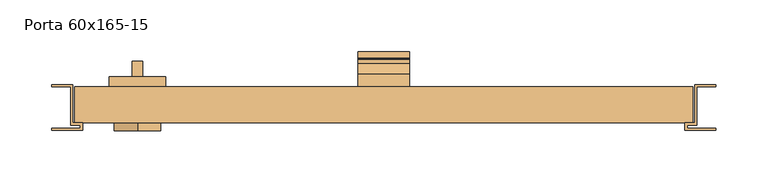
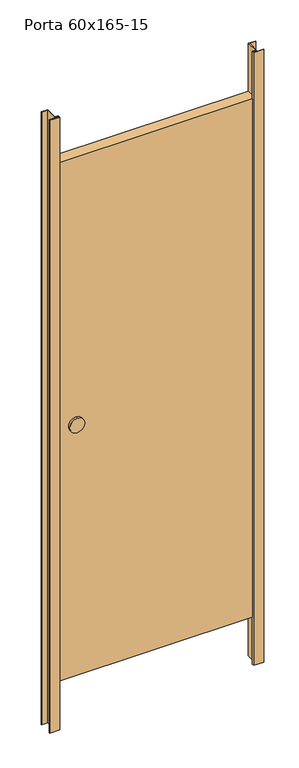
"""IFC4 building model written with IfcOpenShell, lengths in millimetres: door geometry, Porta 60x165-15 : De Abrir_1 (uma) folha."""

from ifc_helpers import new_model, si_unit, point, frame, frame_2d, origin, origin_with_axes, place, context, project, spatial, polyline, circle_curve, trimmed, segment, composite_curve, outline, extrude, source, transform, mapped, element, save


def porta_60x165_15_827af2f1(model_context):
    return source(origin(), model_context, "Body", "SweptSolid", [
        extrude(outline(composite_curve([segment(trimmed(circle_curve(frame_2d((950.0, -239.0)), 22.5), [point((927.5, -239.0))], [point((972.5, -239.0))], False, "CARTESIAN"), True, "CONTINUOUS"), segment(trimmed(circle_curve(frame_2d((950.0, -239.0)), 22.5), [point((972.5, -239.0))], [point((927.5, -239.0))], False, "CARTESIAN"), True, "CONTINUOUS")], self_intersect=False)), frame((0.0, -7.4328407, 0.0), z_axis=(0.0, 1.0, 0.0), x_axis=(0.0, 0.0, 1.0)), (0.0, 0.0, 1.0), 7.4328407),
        extrude(outline(polyline([(-244.0, 60.0), (-234.0, 60.0), (-234.0, 45.0), (-244.0, 45.0), (-244.0, 60.0)])), frame((0.0, 0.0, 932.5), z_axis=(0.0, 0.0, 1.0), x_axis=(1.0, 0.0, 0.0)), (0.0, 0.0, 1.0), 35.0),
        extrude(outline(polyline([(-266.5, 45.0), (-211.5, 45.0), (-211.5, 35.0), (-266.5, 35.0), (-266.5, 45.0)])), frame((0.0, 0.0, 912.5), z_axis=(0.0, 0.0, 1.0), x_axis=(1.0, 0.0, 0.0)), (0.0, 0.0, 1.0), 75.0),
        extrude(outline(composite_curve([segment(polyline([(37.0, 1503.1338874), (37.0, 1478.8625069), (35.0, 1478.8625069), (35.0, 1503.1338874)]), True, "CONTINUOUS"), segment(trimmed(circle_curve(frame_2d((41.298616, 1503.1338874)), 6.298616), [point((35.0, 1503.1338874))], [point((47.597232, 1503.1338874))], False, "CARTESIAN"), True, "CONTINUOUS"), segment(trimmed(circle_curve(frame_2d((90.1631226, 1503.1338874)), 42.5658907), [point((47.597232, 1503.1338874))], [point((57.5557586, 1475.7730602))], True, "CARTESIAN"), True, "CONTINUOUS"), segment(trimmed(circle_curve(frame_2d((61.9440153, 1479.4552447)), 5.7284622), [point((57.5557586, 1475.7730602))], [point((66.3322719, 1475.7730602))], True, "CARTESIAN"), True, "CONTINUOUS"), segment(trimmed(circle_curve(frame_2d((63.2967965, 1478.3201265)), 3.9625316), [point((66.3322719, 1475.7730602))], [point((62.5824915, 1482.2177444))], True, "CARTESIAN"), True, "CONTINUOUS"), segment(trimmed(circle_curve(frame_2d((62.4463365, 1482.9606765)), 0.7553055), [point((62.5824915, 1482.2177444))], [point((62.0901078, 1483.6267002))], False, "CARTESIAN"), True, "CONTINUOUS"), segment(trimmed(circle_curve(frame_2d((63.4109224, 1482.6952637)), 1.6162071), [point((62.0901078, 1483.6267002))], [point((63.0887072, 1484.2790259))], False, "CARTESIAN"), True, "CONTINUOUS"), segment(trimmed(circle_curve(frame_2d((63.2967965, 1478.3201265)), 5.9625316), [point((63.0887072, 1484.2790259))], [point((67.8643608, 1474.487485))], False, "CARTESIAN"), True, "CONTINUOUS"), segment(trimmed(circle_curve(frame_2d((61.9440153, 1479.4552447)), 7.7284622), [point((67.8643608, 1474.487485))], [point((56.0236697, 1474.487485))], False, "CARTESIAN"), True, "CONTINUOUS"), segment(trimmed(circle_curve(frame_2d((90.1631226, 1503.1338874)), 44.5658907), [point((56.0236697, 1474.487485))], [point((45.597232, 1503.1338874))], False, "CARTESIAN"), True, "CONTINUOUS"), segment(trimmed(circle_curve(frame_2d((41.298616, 1503.1338874)), 4.298616), [point((45.597232, 1503.1338874))], [point((37.0, 1503.1338874))], True, "CARTESIAN"), True, "CONTINUOUS")], self_intersect=False)), frame((-25.0, 0.0, 0.0), z_axis=(1.0, 0.0, 0.0), x_axis=(0.0, 1.0, 0.0)), (0.0, 0.0, 1.0), 50.0),
        extrude(outline(polyline([(300.0, 35.0), (300.0, 0.0), (-300.0, 0.0), (-300.0, 35.0), (300.0, 35.0)])), frame((0.0, 0.0, 150.0), z_axis=(0.0, 0.0, 1.0), x_axis=(1.0, 0.0, 0.0)), (0.0, 0.0, 1.0), 1650.0),
        extrude(outline(polyline([(-302.0, 0.0), (-292.0, 0.0), (-292.0, -7.0), (-322.3964539, -7.0), (-322.3964539, -5.0), (-294.3964539, -5.0), (-294.3964539, -2.0), (-304.0, -2.0), (-304.0, 35.0), (-322.0, 35.0), (-322.0, 37.0), (-302.0, 37.0), (-302.0, 0.0)])), origin_with_axes(), (0.0, 0.0, 1.0), 1950.0),
        extrude(outline(polyline([(302.0, 0.0), (302.0, 37.0), (322.0, 37.0), (322.0, 35.0), (304.0, 35.0), (304.0, -2.0), (294.3964539, -2.0), (294.3964539, -5.0), (322.3964539, -5.0), (322.3964539, -7.0), (292.0, -7.0), (292.0, 0.0), (302.0, 0.0)])), origin_with_axes(), (0.0, 0.0, 1.0), 1950.0),
    ])


if __name__ == "__main__":
    model = new_model("IFC4")
    model_context = context("Model", 3, world=origin())
    ifc_project = project(units=[si_unit("LENGTHUNIT", "METRE", prefix="MILLI")], contexts=[model_context])
    site = spatial("IfcSite", under=ifc_project)
    building = spatial("IfcBuilding", under=site)
    placement = place(None, origin())
    porta_60x165_15_shape = porta_60x165_15_827af2f1(model_context)
    element("IfcDoor", 1, ObjectType="Porta 60x165-15 : De Abrir_1 (uma) folha", at=placement, inside=building, context=model_context, shape_type="MappedRepresentation", body=[
        mapped(porta_60x165_15_shape, transform((0.0, 0.0, 0.0), x_axis=(1.0, 0.0, 0.0), y_axis=(0.0, 1.0, 0.0), z_axis=(0.0, 0.0, 1.0))),
    ])
    save(model, "model.ifc")
